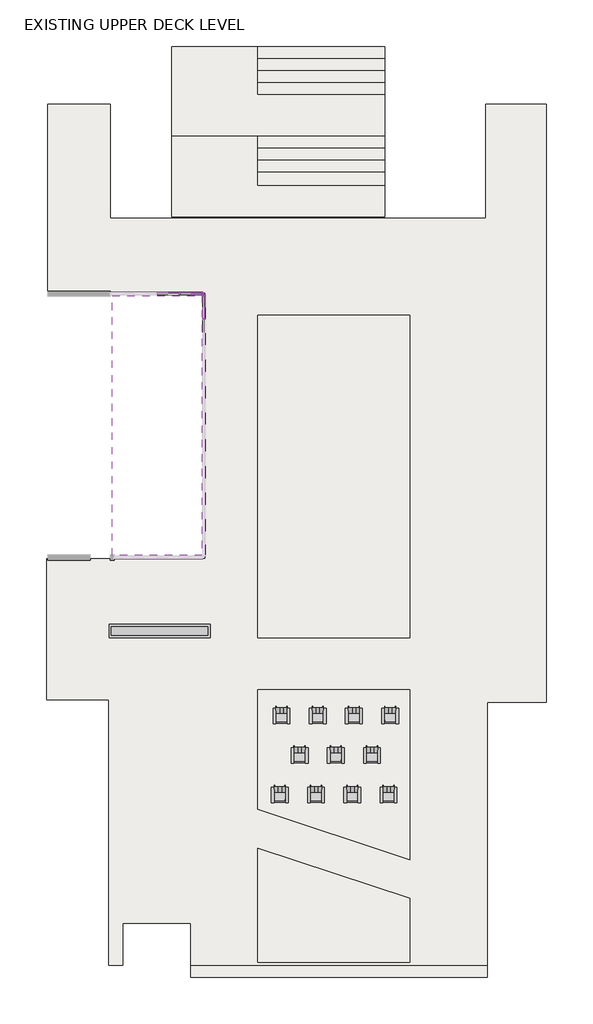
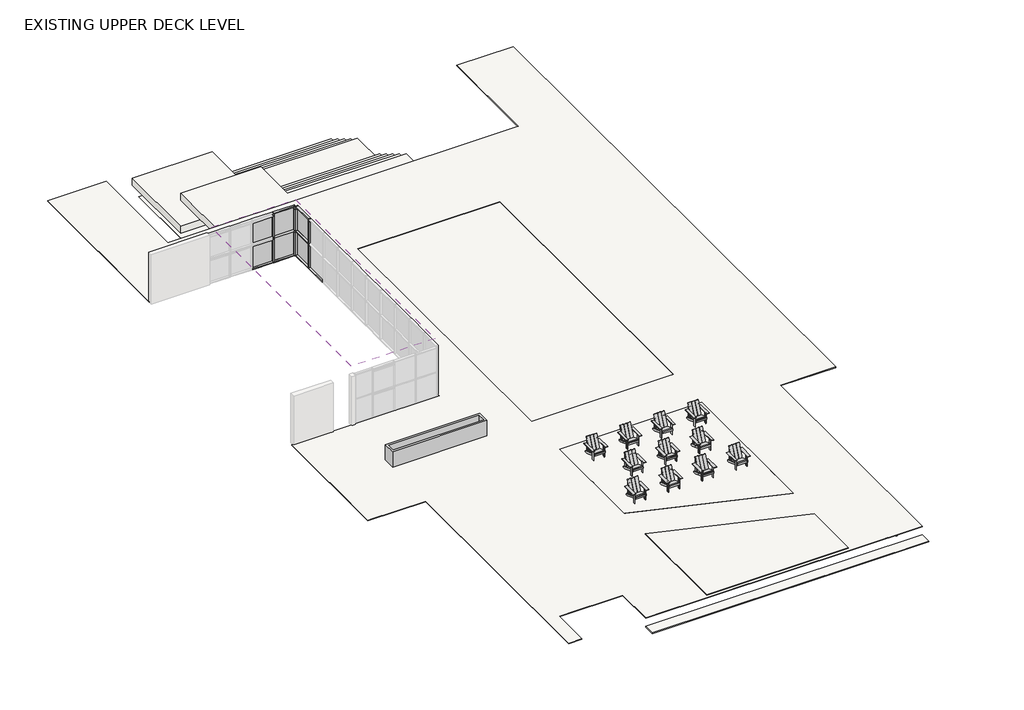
# One storey, part 3 of 3: 23 members, 16 beams, 15 slabs, 11 furniture elements, 8 plates, 1 geographic element, 1 roof.
"""IFC4 building model written with IfcOpenShell, lengths in millimetres."""

from ifc_helpers import new_model, si_unit, frame, origin, place, context, project, spatial, polyline, outline, extrude, transform, mapped, element, save
from components import dimension_lumber_2x10_b1b00c38, dimension_lumber_2x10_1dc64cbc, w_wide_flange_w12x26_d550ef31, w_wide_flange_w12x26_78e0f775, w_wide_flange_w16x36_ed80a345, adirondack_chair_and_table_chair_16611_adirondack_chair_and_71c2177a, geographic_element_2b798763, rectangular_mullion_3bbbedf9, rectangular_mullion_b4cfd369, rectangular_mullion_7315190d, rectangular_mullion_b1e2b9a9, rectangular_mullion_10d2db1b, rectangular_mullion_3d4ac5a3, rectangular_mullion_d11c3cbe, rectangular_mullion_58844fd5, rectangular_mullion_fd3b6dd5, rectangular_mullion_40eadc30, rectangular_mullion_3aae72b7, rectangular_mullion_b3d4cb6b, rectangular_mullion_02851ec9, rectangular_mullion_aeacb874, rectangular_mullion_6010078c, rectangular_mullion_5dae8c0a, rectangular_mullion_0bcf50c1, rectangular_mullion_634541af, rectangular_mullion_af807cf6, rectangular_mullion_93630891, rectangular_mullion_f3aea93a, rectangular_mullion_042afdd0, rectangular_mullion_55faee5e, plate_cb1350e7, plate_33b08ce2, plate_3054a16b, plate_87ee5b28, plate_30067b60, plate_68830c21, plate_a2bcb05a, plate_dc7cb12e

model = new_model("IFC4")

# Units and contexts
model_context = context("Model", 3, world=origin())
ifc_project = project(units=[si_unit("LENGTHUNIT", "METRE", prefix="MILLI")], contexts=[model_context])

# Site, building, storey
site = spatial("IfcSite", under=ifc_project)
building = spatial("IfcBuilding", under=site)
storey = spatial("IfcBuildingStorey", under=building, Name="EXISTING UPPER DECK LEVEL", Elevation=294830.5)

# Beams
placement = place(None, origin())
dimension_lumber_2x10_shape = dimension_lumber_2x10_b1b00c38(model_context)
element("IfcBeam", 1, ObjectType="Dimension Lumber : 2x10", at=placement, inside=storey, context=model_context, shape_type="MappedRepresentation", body=[
    mapped(dimension_lumber_2x10_shape, transform((35809.7406651, 197243.4763434, 294713.025), x_axis=(0.0, -1.0, 0.0), y_axis=(1.0, 0.0, 0.0), z_axis=(0.0, 0.0, 1.0))),
])
element("IfcBeam", 2, ObjectType="Dimension Lumber : 2x10", at=placement, inside=storey, context=model_context, shape_type="MappedRepresentation", body=[
    mapped(dimension_lumber_2x10_shape, transform((35200.1406651, 197243.4763434, 294713.025), x_axis=(0.0, -1.0, 0.0), y_axis=(1.0, 0.0, 0.0), z_axis=(0.0, 0.0, 1.0))),
])
element("IfcBeam", 3, ObjectType="Dimension Lumber : 2x10", at=placement, inside=storey, context=model_context, shape_type="MappedRepresentation", body=[
    mapped(dimension_lumber_2x10_shape, transform((34590.5406651, 197243.4763434, 294713.025), x_axis=(0.0, -1.0, 0.0), y_axis=(1.0, 0.0, 0.0), z_axis=(0.0, 0.0, 1.0))),
])
element("IfcBeam", 4, ObjectType="Dimension Lumber : 2x10", at=placement, inside=storey, context=model_context, shape_type="MappedRepresentation", body=[
    mapped(dimension_lumber_2x10_shape, transform((33371.3406651, 197243.4763434, 294713.025), x_axis=(0.0, -1.0, 0.0), y_axis=(1.0, 0.0, 0.0), z_axis=(0.0, 0.0, 1.0))),
])
element("IfcBeam", 5, ObjectType="Dimension Lumber : 2x10", at=placement, inside=storey, context=model_context, shape_type="MappedRepresentation", body=[
    mapped(dimension_lumber_2x10_shape, transform((32761.7406651, 197243.4763434, 294713.025), x_axis=(0.0, -1.0, 0.0), y_axis=(1.0, 0.0, 0.0), z_axis=(0.0, 0.0, 1.0))),
])
element("IfcBeam", 6, ObjectType="Dimension Lumber : 2x10", at=placement, inside=storey, context=model_context, shape_type="MappedRepresentation", body=[
    mapped(dimension_lumber_2x10_shape, transform((32152.1406651, 197243.4763434, 294713.025), x_axis=(0.0, -1.0, 0.0), y_axis=(1.0, 0.0, 0.0), z_axis=(0.0, 0.0, 1.0))),
])
element("IfcBeam", 7, ObjectType="Dimension Lumber : 2x10", at=placement, inside=storey, context=model_context, shape_type="MappedRepresentation", body=[
    mapped(dimension_lumber_2x10_shape, transform((31542.5406651, 197243.4763434, 294713.025), x_axis=(0.0, -1.0, 0.0), y_axis=(1.0, 0.0, 0.0), z_axis=(0.0, 0.0, 1.0))),
])
element("IfcBeam", 8, ObjectType="Dimension Lumber : 2x10", at=placement, inside=storey, context=model_context, shape_type="MappedRepresentation", body=[
    mapped(dimension_lumber_2x10_shape, transform((30932.9406651, 197243.4763434, 294713.025), x_axis=(0.0, -1.0, 0.0), y_axis=(1.0, 0.0, 0.0), z_axis=(0.0, 0.0, 1.0))),
])
element("IfcBeam", 9, ObjectType="Dimension Lumber : 2x10", at=placement, inside=storey, context=model_context, shape_type="MappedRepresentation", body=[
    mapped(dimension_lumber_2x10_shape, transform((30323.3406651, 197243.4763434, 294713.025), x_axis=(0.0, -1.0, 0.0), y_axis=(1.0, 0.0, 0.0), z_axis=(0.0, 0.0, 1.0))),
])
element("IfcBeam", 10, ObjectType="Dimension Lumber : 2x10", at=placement, inside=storey, context=model_context, shape_type="MappedRepresentation", body=[
    mapped(dimension_lumber_2x10_shape, transform((29713.7406651, 197243.4763434, 294713.025), x_axis=(0.0, -1.0, 0.0), y_axis=(1.0, 0.0, 0.0), z_axis=(0.0, 0.0, 1.0))),
])
element("IfcBeam", 11, ObjectType="Dimension Lumber : 2x10", at=placement, inside=storey, context=model_context, shape_type="MappedRepresentation", body=[
    mapped(dimension_lumber_2x10_shape, transform((29104.1406651, 197243.4763434, 294713.025), x_axis=(0.0, -1.0, 0.0), y_axis=(1.0, 0.0, 0.0), z_axis=(0.0, 0.0, 1.0))),
])
element("IfcBeam", 12, ObjectType="Dimension Lumber : 2x10", at=placement, inside=storey, context=model_context, shape_type="MappedRepresentation", body=[
    mapped(dimension_lumber_2x10_shape, transform((36419.3406651, 197243.4763434, 294713.025), x_axis=(0.0, -1.0, 0.0), y_axis=(1.0, 0.0, 0.0), z_axis=(0.0, 0.0, 1.0))),
])
dimension_lumber_2x10_2_shape = dimension_lumber_2x10_1dc64cbc(model_context)
element("IfcBeam", 13, ObjectType="Dimension Lumber : 2x10", at=placement, inside=storey, context=model_context, shape_type="MappedRepresentation", body=[
    mapped(dimension_lumber_2x10_2_shape, transform((38857.7406651, 197243.4763434, 294713.025), x_axis=(0.0, -1.0, 0.0), y_axis=(1.0, 0.0, 0.0), z_axis=(0.0, 0.0, 1.0))),
])
w_wide_flange_w12x26_shape = w_wide_flange_w12x26_d550ef31(model_context)
element("IfcBeam", 14, ObjectType="W-Wide Flange : W12X26", at=placement, inside=storey, context=model_context, shape_type="MappedRepresentation", body=[
    mapped(w_wide_flange_w12x26_shape, transform((33987.0004964, 203475.5114935, 294675.56), x_axis=(0.0, -1.0, 0.0), y_axis=(1.0, 0.0, 0.0), z_axis=(0.0, 0.0, 1.0))),
])
w_wide_flange_w12x26_2_shape = w_wide_flange_w12x26_78e0f775(model_context)
element("IfcBeam", 15, ObjectType="W-Wide Flange : W12X26", at=placement, inside=storey, context=model_context, shape_type="MappedRepresentation", body=[
    mapped(w_wide_flange_w12x26_2_shape, transform((31243.8004964, 203475.5114935, 294675.56), x_axis=(0.0, -1.0, 0.0), y_axis=(1.0, 0.0, 0.0), z_axis=(0.0, 0.0, 1.0))),
])
w_wide_flange_w16x36_shape = w_wide_flange_w16x36_ed80a345(model_context)
element("IfcBeam", 16, ObjectType="W-Wide Flange : W16X36", at=placement, inside=storey, context=model_context, shape_type="MappedRepresentation", body=[
    mapped(w_wide_flange_w16x36_shape, transform((29865.8504964, 203246.9114935, 294628.57), x_axis=(-1.0, 0.0, 0.0), y_axis=(0.0, -1.0, 0.0), z_axis=(0.0, 0.0, 1.0))),
])

# Furniture
adirondack_chair_and_table_chair_16611_adirondack_chair_and_shape = adirondack_chair_and_table_chair_16611_adirondack_chair_and_71c2177a(model_context)
element("IfcFurniture", 17, ObjectType="Adirondack_Chair_and_Table_-_Chair_16611 : Adirondack_Chair_and_Table_-_Chair_16611", at=placement, inside=storey, context=model_context, shape_type="MappedRepresentation", body=[
    mapped(adirondack_chair_and_table_chair_16611_adirondack_chair_and_shape, transform((30475.7406651, 200129.0614935, 294881.3), x_axis=(1.0, 0.0, 0.0), y_axis=(0.0, 1.0, 0.0), z_axis=(0.0, 0.0, 1.0))),
])
element("IfcFurniture", 18, ObjectType="Adirondack_Chair_and_Table_-_Chair_16611 : Adirondack_Chair_and_Table_-_Chair_16611", at=placement, inside=storey, context=model_context, shape_type="MappedRepresentation", body=[
    mapped(adirondack_chair_and_table_chair_16611_adirondack_chair_and_shape, transform((32152.1406651, 200129.0614935, 294881.3), x_axis=(1.0, 0.0, 0.0), y_axis=(0.0, 1.0, 0.0), z_axis=(0.0, 0.0, 1.0))),
])
element("IfcFurniture", 19, ObjectType="Adirondack_Chair_and_Table_-_Chair_16611 : Adirondack_Chair_and_Table_-_Chair_16611", at=placement, inside=storey, context=model_context, shape_type="MappedRepresentation", body=[
    mapped(adirondack_chair_and_table_chair_16611_adirondack_chair_and_shape, transform((33828.5406651, 200129.0614935, 294881.3), x_axis=(1.0, 0.0, 0.0), y_axis=(0.0, 1.0, 0.0), z_axis=(0.0, 0.0, 1.0))),
])
element("IfcFurniture", 20, ObjectType="Adirondack_Chair_and_Table_-_Chair_16611 : Adirondack_Chair_and_Table_-_Chair_16611", at=placement, inside=storey, context=model_context, shape_type="MappedRepresentation", body=[
    mapped(adirondack_chair_and_table_chair_16611_adirondack_chair_and_shape, transform((35504.9406651, 200129.0614935, 294881.3), x_axis=(1.0, 0.0, 0.0), y_axis=(0.0, 1.0, 0.0), z_axis=(0.0, 0.0, 1.0))),
])
element("IfcFurniture", 21, ObjectType="Adirondack_Chair_and_Table_-_Chair_16611 : Adirondack_Chair_and_Table_-_Chair_16611", at=placement, inside=storey, context=model_context, shape_type="MappedRepresentation", body=[
    mapped(adirondack_chair_and_table_chair_16611_adirondack_chair_and_shape, transform((31313.9406651, 198300.2614935, 294881.3), x_axis=(1.0, 0.0, 0.0), y_axis=(0.0, 1.0, 0.0), z_axis=(0.0, 0.0, 1.0))),
])
element("IfcFurniture", 22, ObjectType="Adirondack_Chair_and_Table_-_Chair_16611 : Adirondack_Chair_and_Table_-_Chair_16611", at=placement, inside=storey, context=model_context, shape_type="MappedRepresentation", body=[
    mapped(adirondack_chair_and_table_chair_16611_adirondack_chair_and_shape, transform((32990.3406651, 198300.2614935, 294881.3), x_axis=(1.0, 0.0, 0.0), y_axis=(0.0, 1.0, 0.0), z_axis=(0.0, 0.0, 1.0))),
])
element("IfcFurniture", 23, ObjectType="Adirondack_Chair_and_Table_-_Chair_16611 : Adirondack_Chair_and_Table_-_Chair_16611", at=placement, inside=storey, context=model_context, shape_type="MappedRepresentation", body=[
    mapped(adirondack_chair_and_table_chair_16611_adirondack_chair_and_shape, transform((34666.7406651, 198300.2614935, 294881.3), x_axis=(1.0, 0.0, 0.0), y_axis=(0.0, 1.0, 0.0), z_axis=(0.0, 0.0, 1.0))),
])
element("IfcFurniture", 24, ObjectType="Adirondack_Chair_and_Table_-_Chair_16611 : Adirondack_Chair_and_Table_-_Chair_16611", at=placement, inside=storey, context=model_context, shape_type="MappedRepresentation", body=[
    mapped(adirondack_chair_and_table_chair_16611_adirondack_chair_and_shape, transform((32075.9406651, 196471.4614935, 294881.3), x_axis=(1.0, 0.0, 0.0), y_axis=(0.0, 1.0, 0.0), z_axis=(0.0, 0.0, 1.0))),
])
element("IfcFurniture", 25, ObjectType="Adirondack_Chair_and_Table_-_Chair_16611 : Adirondack_Chair_and_Table_-_Chair_16611", at=placement, inside=storey, context=model_context, shape_type="MappedRepresentation", body=[
    mapped(adirondack_chair_and_table_chair_16611_adirondack_chair_and_shape, transform((33752.3406651, 196471.4614935, 294881.3), x_axis=(1.0, 0.0, 0.0), y_axis=(0.0, 1.0, 0.0), z_axis=(0.0, 0.0, 1.0))),
])
element("IfcFurniture", 26, ObjectType="Adirondack_Chair_and_Table_-_Chair_16611 : Adirondack_Chair_and_Table_-_Chair_16611", at=placement, inside=storey, context=model_context, shape_type="MappedRepresentation", body=[
    mapped(adirondack_chair_and_table_chair_16611_adirondack_chair_and_shape, transform((35428.7406651, 196471.4614935, 294881.3), x_axis=(1.0, 0.0, 0.0), y_axis=(0.0, 1.0, 0.0), z_axis=(0.0, 0.0, 1.0))),
])
element("IfcFurniture", 27, ObjectType="Adirondack_Chair_and_Table_-_Chair_16611 : Adirondack_Chair_and_Table_-_Chair_16611", at=placement, inside=storey, context=model_context, shape_type="MappedRepresentation", body=[
    mapped(adirondack_chair_and_table_chair_16611_adirondack_chair_and_shape, transform((30399.5406651, 196471.4614935, 294881.3), x_axis=(1.0, 0.0, 0.0), y_axis=(0.0, 1.0, 0.0), z_axis=(0.0, 0.0, 1.0))),
])

# Geographic element
geographic_element_shape = geographic_element_2b798763(model_context)
element("IfcGeographicElement", 28, ObjectType="Planter : 15'-4\" x 24\"", at=placement, inside=storey, context=model_context, shape_type="MappedRepresentation", body=[
    mapped(geographic_element_shape, transform((24835.9779546, 203697.5652609, 294830.5), x_axis=(0.0, 1.0, 0.0), y_axis=(-1.0, 0.0, 0.0), z_axis=(0.0, 0.0, 1.0))),
])

# Members
rectangular_mullion_shape = rectangular_mullion_3bbbedf9(model_context)
element("IfcMember", 29, ObjectType="Rectangular Mullion : Kawneer-TRIFAB_VG_450_BACK_SB_Vertical", at=placement, inside=storey, context=model_context, shape_type="MappedRepresentation", body=[
    mapped(rectangular_mullion_shape, transform((26931.5406077, 218120.7591288, 294830.5), x_axis=(0.0, -1.0, 0.0), y_axis=(-1.0, 0.0, 0.0), z_axis=(0.0, 0.0, -1.0))),
])
rectangular_mullion_2_shape = rectangular_mullion_b4cfd369(model_context)
element("IfcMember", 30, ObjectType="Rectangular Mullion : Kawneer-TRIFAB_VG_450_BACK_SB_Jamb L", at=placement, inside=storey, context=model_context, shape_type="MappedRepresentation", body=[
    mapped(rectangular_mullion_2_shape, transform((26931.5406077, 219249.81426, 296049.7), x_axis=(0.0, 1.0, 0.0), y_axis=(-1.0, 0.0, 0.0), z_axis=(0.0, 0.0, 1.0))),
])
rectangular_mullion_3_shape = rectangular_mullion_7315190d(model_context)
element("IfcMember", 31, ObjectType="Rectangular Mullion : Kawneer-TRIFAB_VG_450_BACK_SB_Sill", at=placement, inside=storey, context=model_context, shape_type="MappedRepresentation", body=[
    mapped(rectangular_mullion_3_shape, transform((26931.5406077, 218098.5341288, 294830.5), x_axis=(0.0, 0.0, -1.0), y_axis=(-1.0, 0.0, 0.0), z_axis=(0.0, 1.0, 0.0))),
])
rectangular_mullion_4_shape = rectangular_mullion_b1e2b9a9(model_context)
element("IfcMember", 32, ObjectType="Rectangular Mullion : Kawneer-TRIFAB_VG_450_BACK_SB_Jamb L", at=placement, inside=storey, context=model_context, shape_type="MappedRepresentation", body=[
    mapped(rectangular_mullion_4_shape, transform((26834.7031077, 219346.65176, 296049.7), x_axis=(1.0, 0.0, 0.0), y_axis=(0.0, 1.0, 0.0), z_axis=(0.0, 0.0, 1.0))),
])
rectangular_mullion_5_shape = rectangular_mullion_10d2db1b(model_context)
element("IfcMember", 33, ObjectType="Rectangular Mullion : Kawneer-TRIFAB_VG_450_BACK_SB_Vertical", at=placement, inside=storey, context=model_context, shape_type="MappedRepresentation", body=[
    mapped(rectangular_mullion_5_shape, transform((26931.5406077, 218120.7591288, 297268.9), x_axis=(0.0, -1.0, 0.0), y_axis=(-1.0, 0.0, 0.0), z_axis=(0.0, 0.0, -1.0))),
])
rectangular_mullion_6_shape = rectangular_mullion_3d4ac5a3(model_context)
element("IfcMember", 34, ObjectType="Rectangular Mullion : Kawneer-TRIFAB_VG_450_BACK_SB_Jamb L", at=placement, inside=storey, context=model_context, shape_type="MappedRepresentation", body=[
    mapped(rectangular_mullion_6_shape, transform((26931.5406077, 219249.81426, 297421.3), x_axis=(0.0, 1.0, 0.0), y_axis=(-1.0, 0.0, 0.0), z_axis=(0.0, 0.0, 1.0))),
])
rectangular_mullion_7_shape = rectangular_mullion_d11c3cbe(model_context)
element("IfcMember", 35, ObjectType="Rectangular Mullion : Kawneer-TRIFAB_VG_450_BACK_SB_Jamb L", at=placement, inside=storey, context=model_context, shape_type="MappedRepresentation", body=[
    mapped(rectangular_mullion_7_shape, transform((26834.7031077, 219346.65176, 297421.3), x_axis=(1.0, 0.0, 0.0), y_axis=(0.0, 1.0, 0.0), z_axis=(0.0, 0.0, 1.0))),
])
rectangular_mullion_8_shape = rectangular_mullion_58844fd5(model_context)
element("IfcMember", 36, ObjectType="Rectangular Mullion : Kawneer-TRIFAB_VG_450_BACK_SB_Vertical", at=placement, inside=storey, context=model_context, shape_type="MappedRepresentation", body=[
    mapped(rectangular_mullion_8_shape, transform((25763.9186944, 219346.65176, 294830.5), x_axis=(-1.0, 0.0, 0.0), y_axis=(0.0, 1.0, 0.0), z_axis=(0.0, 0.0, -1.0))),
])
rectangular_mullion_9_shape = rectangular_mullion_fd3b6dd5(model_context)
element("IfcMember", 37, ObjectType="Rectangular Mullion : Kawneer-TRIFAB_VG_450_BACK_SB_Vertical", at=placement, inside=storey, context=model_context, shape_type="MappedRepresentation", body=[
    mapped(rectangular_mullion_9_shape, transform((26931.5406077, 218120.7591288, 296049.7), x_axis=(0.0, -1.0, 0.0), y_axis=(-1.0, 0.0, 0.0), z_axis=(0.0, 0.0, -1.0))),
])
rectangular_mullion_10_shape = rectangular_mullion_40eadc30(model_context)
element("IfcMember", 38, ObjectType="Rectangular Mullion : Kawneer-TRIFAB_VG_450_BACK_SB_Vertical", at=placement, inside=storey, context=model_context, shape_type="MappedRepresentation", body=[
    mapped(rectangular_mullion_10_shape, transform((26931.5406077, 218120.7591288, 296152.4594027), x_axis=(0.0, -1.0, 0.0), y_axis=(-1.0, 0.0, 0.0), z_axis=(0.0, 0.0, -1.0))),
])
rectangular_mullion_11_shape = rectangular_mullion_3aae72b7(model_context)
element("IfcMember", 39, ObjectType="Rectangular Mullion : Kawneer-TRIFAB_VG_450_BACK_SB_Jamb L", at=placement, inside=storey, context=model_context, shape_type="MappedRepresentation", body=[
    mapped(rectangular_mullion_11_shape, transform((26931.5406077, 219249.81426, 297268.9), x_axis=(0.0, 1.0, 0.0), y_axis=(-1.0, 0.0, 0.0), z_axis=(0.0, 0.0, 1.0))),
])
rectangular_mullion_12_shape = rectangular_mullion_b3d4cb6b(model_context)
element("IfcMember", 40, ObjectType="Rectangular Mullion : Kawneer-TRIFAB_VG_450_BACK_SB_Jamb L", at=placement, inside=storey, context=model_context, shape_type="MappedRepresentation", body=[
    mapped(rectangular_mullion_12_shape, transform((26931.5406077, 219249.81426, 296108.0094027), x_axis=(0.0, 1.0, 0.0), y_axis=(-1.0, 0.0, 0.0), z_axis=(0.0, 0.0, 1.0))),
])
rectangular_mullion_13_shape = rectangular_mullion_02851ec9(model_context)
element("IfcMember", 41, ObjectType="Rectangular Mullion : Kawneer-TRIFAB_VG_450_BACK_SB_Jamb L", at=placement, inside=storey, context=model_context, shape_type="MappedRepresentation", body=[
    mapped(rectangular_mullion_13_shape, transform((26834.7031077, 219346.65176, 297268.9), x_axis=(1.0, 0.0, 0.0), y_axis=(0.0, 1.0, 0.0), z_axis=(0.0, 0.0, 1.0))),
])
rectangular_mullion_14_shape = rectangular_mullion_aeacb874(model_context)
element("IfcMember", 42, ObjectType="Rectangular Mullion : Kawneer-TRIFAB_VG_450_BACK_SB_Jamb L", at=placement, inside=storey, context=model_context, shape_type="MappedRepresentation", body=[
    mapped(rectangular_mullion_14_shape, transform((26834.7031077, 219346.65176, 296108.0094027), x_axis=(1.0, 0.0, 0.0), y_axis=(0.0, 1.0, 0.0), z_axis=(0.0, 0.0, 1.0))),
])
rectangular_mullion_15_shape = rectangular_mullion_6010078c(model_context)
element("IfcMember", 43, ObjectType="Rectangular Mullion : Kawneer-TRIFAB_VG_450_BACK_SB_Sill", at=placement, inside=storey, context=model_context, shape_type="MappedRepresentation", body=[
    mapped(rectangular_mullion_15_shape, transform((26931.5406077, 219205.36426, 294830.5), x_axis=(0.0, 0.0, -1.0), y_axis=(-1.0, 0.0, 0.0), z_axis=(0.0, 1.0, 0.0))),
])
rectangular_mullion_16_shape = rectangular_mullion_5dae8c0a(model_context)
element("IfcMember", 44, ObjectType="Rectangular Mullion : Kawneer-TRIFAB_VG_450_BACK_SB_Head", at=placement, inside=storey, context=model_context, shape_type="MappedRepresentation", body=[
    mapped(rectangular_mullion_16_shape, transform((26931.5406077, 218142.9841288, 297421.3), x_axis=(0.0, 0.0, 1.0), y_axis=(-1.0, 0.0, 0.0), z_axis=(0.0, -1.0, 0.0))),
])
rectangular_mullion_17_shape = rectangular_mullion_0bcf50c1(model_context)
element("IfcMember", 45, ObjectType="Rectangular Mullion : Kawneer-TRIFAB_VG_450_BACK_SB_Horizontal", at=placement, inside=storey, context=model_context, shape_type="MappedRepresentation", body=[
    mapped(rectangular_mullion_17_shape, transform((26931.5406077, 218120.7591288, 296125.9), x_axis=(0.0, 0.0, 1.0), y_axis=(-1.0, 0.0, 0.0), z_axis=(0.0, -1.0, 0.0))),
])
rectangular_mullion_18_shape = rectangular_mullion_634541af(model_context)
element("IfcMember", 46, ObjectType="Rectangular Mullion : Kawneer-TRIFAB_VG_450_BACK_SB_Vertical", at=placement, inside=storey, context=model_context, shape_type="MappedRepresentation", body=[
    mapped(rectangular_mullion_18_shape, transform((25763.9186944, 219346.65176, 296076.2594027), x_axis=(-1.0, 0.0, 0.0), y_axis=(0.0, 1.0, 0.0), z_axis=(0.0, 0.0, -1.0))),
])
rectangular_mullion_19_shape = rectangular_mullion_af807cf6(model_context)
element("IfcMember", 47, ObjectType="Rectangular Mullion : Kawneer-TRIFAB_VG_450_BACK_SB_Vertical", at=placement, inside=storey, context=model_context, shape_type="MappedRepresentation", body=[
    mapped(rectangular_mullion_19_shape, transform((25763.9186944, 219346.65176, 296152.4594027), x_axis=(-1.0, 0.0, 0.0), y_axis=(0.0, 1.0, 0.0), z_axis=(0.0, 0.0, -1.0))),
])
rectangular_mullion_20_shape = rectangular_mullion_93630891(model_context)
element("IfcMember", 48, ObjectType="Rectangular Mullion : Kawneer-TRIFAB_VG_450_BACK_SB_Vertical", at=placement, inside=storey, context=model_context, shape_type="MappedRepresentation", body=[
    mapped(rectangular_mullion_20_shape, transform((25763.9186944, 219346.65176, 297295.4594027), x_axis=(-1.0, 0.0, 0.0), y_axis=(0.0, 1.0, 0.0), z_axis=(0.0, 0.0, -1.0))),
])
rectangular_mullion_21_shape = rectangular_mullion_f3aea93a(model_context)
element("IfcMember", 49, ObjectType="Rectangular Mullion : Kawneer-TRIFAB_VG_450_BACK_SB_Sill", at=placement, inside=storey, context=model_context, shape_type="MappedRepresentation", body=[
    mapped(rectangular_mullion_21_shape, transform((26790.2531077, 219346.65176, 294830.5), x_axis=(0.0, 0.0, -1.0), y_axis=(0.0, 1.0, 0.0), z_axis=(1.0, 0.0, 0.0))),
])
rectangular_mullion_22_shape = rectangular_mullion_042afdd0(model_context)
element("IfcMember", 50, ObjectType="Rectangular Mullion : Kawneer-TRIFAB_VG_450_BACK_SB_Head", at=placement, inside=storey, context=model_context, shape_type="MappedRepresentation", body=[
    mapped(rectangular_mullion_22_shape, transform((25786.1436944, 219346.65176, 297421.3), x_axis=(0.0, 0.0, 1.0), y_axis=(0.0, 1.0, 0.0), z_axis=(-1.0, 0.0, 0.0))),
])
rectangular_mullion_23_shape = rectangular_mullion_55faee5e(model_context)
element("IfcMember", 51, ObjectType="Rectangular Mullion : Kawneer-TRIFAB_VG_450_BACK_SB_Sill", at=placement, inside=storey, context=model_context, shape_type="MappedRepresentation", body=[
    mapped(rectangular_mullion_23_shape, transform((25741.6936944, 219346.65176, 294830.5), x_axis=(0.0, 0.0, -1.0), y_axis=(0.0, 1.0, 0.0), z_axis=(1.0, 0.0, 0.0))),
])

# Plates
plate_shape = plate_cb1350e7(model_context)
element("IfcPlate", 52, ObjectType="System Panel : 1/4\" Glass", at=placement, inside=storey, context=model_context, shape_type="MappedRepresentation", body=[
    mapped(plate_shape, transform((26931.5406077, 218667.8241944, 294865.425), x_axis=(0.0, -1.0, 0.0), y_axis=(1.0, 0.0, 0.0), z_axis=(0.0, 0.0, 1.0))),
])
plate_2_shape = plate_33b08ce2(model_context)
element("IfcPlate", 53, ObjectType="System Panel : 1/4\" Glass", at=placement, inside=storey, context=model_context, shape_type="MappedRepresentation", body=[
    mapped(plate_2_shape, transform((26931.5406077, 218667.8241944, 296152.4594027), x_axis=(0.0, -1.0, 0.0), y_axis=(1.0, 0.0, 0.0), z_axis=(0.0, 0.0, 1.0))),
])
plate_3_shape = plate_3054a16b(model_context)
element("IfcPlate", 54, ObjectType="System Panel : 1/4\" Glass", at=placement, inside=storey, context=model_context, shape_type="MappedRepresentation", body=[
    mapped(plate_3_shape, transform((26281.8484011, 219346.65176, 294865.425), x_axis=(-1.0, 0.0, 0.0), y_axis=(0.0, -1.0, 0.0), z_axis=(0.0, 0.0, 1.0))),
])
plate_4_shape = plate_87ee5b28(model_context)
element("IfcPlate", 55, ObjectType="System Panel : 1/4\" Glass", at=placement, inside=storey, context=model_context, shape_type="MappedRepresentation", body=[
    mapped(plate_4_shape, transform((26281.8484011, 219346.65176, 296152.4594027), x_axis=(-1.0, 0.0, 0.0), y_axis=(0.0, -1.0, 0.0), z_axis=(0.0, 0.0, 1.0))),
])
plate_5_shape = plate_30067b60(model_context)
element("IfcPlate", 56, ObjectType="System Panel : 1/4\" Glass", at=placement, inside=storey, context=model_context, shape_type="MappedRepresentation", body=[
    mapped(plate_5_shape, transform((25228.527373, 219346.65176, 294865.425), x_axis=(-1.0, 0.0, 0.0), y_axis=(0.0, -1.0, 0.0), z_axis=(0.0, 0.0, 1.0))),
])
plate_6_shape = plate_68830c21(model_context)
element("IfcPlate", 57, ObjectType="System Panel : 1/4\" Glass", at=placement, inside=storey, context=model_context, shape_type="MappedRepresentation", body=[
    mapped(plate_6_shape, transform((25228.527373, 219346.65176, 296076.2594027), x_axis=(-1.0, 0.0, 0.0), y_axis=(0.0, -1.0, 0.0), z_axis=(0.0, 0.0, 1.0))),
])
plate_7_shape = plate_a2bcb05a(model_context)
element("IfcPlate", 58, ObjectType="System Panel : 1/4\" Glass", at=placement, inside=storey, context=model_context, shape_type="MappedRepresentation", body=[
    mapped(plate_7_shape, transform((25228.527373, 219346.65176, 296152.4594027), x_axis=(-1.0, 0.0, 0.0), y_axis=(0.0, -1.0, 0.0), z_axis=(0.0, 0.0, 1.0))),
])
plate_8_shape = plate_dc7cb12e(model_context)
element("IfcPlate", 59, ObjectType="System Panel : 1/4\" Glass", at=placement, inside=storey, context=model_context, shape_type="MappedRepresentation", body=[
    mapped(plate_8_shape, transform((25228.527373, 219346.65176, 297295.4594027), x_axis=(-1.0, 0.0, 0.0), y_axis=(0.0, -1.0, 0.0), z_axis=(0.0, 0.0, 1.0))),
])

# Roof
element("IfcRoof", 60, ObjectType="TPO ROOF WITH 4\" INSULATION", at=placement, inside=storey, context=model_context, shape_type="SweptSolid", body=[
    extrude(outline(polyline([(22653.1654546, 219211.1358092), (26796.6031077, 219211.1358092), (26796.6031077, 207192.6449484), (22653.1654546, 207192.6449484), (22653.1654546, 219211.1358092)])), frame((0.0, 0.0, 297805.475), z_axis=(0.0, 0.0, 1.0), x_axis=(1.0, 0.0, 0.0)), (0.0, 0.0, 1.0), 123.825),
])

# Slabs
element("IfcSlab", 61, ObjectType="5/4\" Hardwood Stadium Seat (14\")", at=placement, inside=storey, context=model_context, shape_type="SweptSolid", body=[
    extrude(outline(polyline([(25396.8728313, 222866.5454803), (25396.8728313, 226588.7909796), (29359.2728313, 226588.7909796), (29359.2728313, 224302.7909796), (35251.5654546, 224302.7909796), (35251.5654546, 222866.5454803), (25396.8728313, 222866.5454803)])), frame((0.0, 0.0, 293784.8666667), z_axis=(0.0, 0.0, 1.0), x_axis=(1.0, 0.0, 0.0)), (0.0, 0.0, 1.0), 355.6),
])
element("IfcSlab", 62, ObjectType="5/4\" Hardwood Stadium Seat (14\")", at=placement, inside=storey, context=model_context, shape_type="SweptSolid", body=[
    extrude(outline(polyline([(29359.2728313, 224302.7909796), (29359.2728313, 224912.3909796), (35251.5654546, 224912.3909796), (35251.5654546, 224302.7909796), (29359.2728313, 224302.7909796)])), frame((0.0, 0.0, 293439.85), z_axis=(0.0, 0.0, 1.0), x_axis=(1.0, 0.0, 0.0)), (0.0, 0.0, 1.0), 355.6),
])
element("IfcSlab", 63, ObjectType="5/4\" Hardwood Stadium Seat (14\")", at=placement, inside=storey, context=model_context, shape_type="SweptSolid", body=[
    extrude(outline(polyline([(29359.2728313, 224861.5909796), (29359.2728313, 225471.1909796), (35251.5654546, 225471.1909796), (35251.5654546, 224861.5909796), (29359.2728313, 224861.5909796)])), frame((0.0, 0.0, 293094.8333333), z_axis=(0.0, 0.0, 1.0), x_axis=(1.0, 0.0, 0.0)), (0.0, 0.0, 1.0), 355.6),
])
element("IfcSlab", 64, ObjectType="5/4\" Hardwood Stadium Seat (14\")", at=placement, inside=storey, context=model_context, shape_type="SweptSolid", body=[
    extrude(outline(polyline([(29359.2728313, 225420.3909796), (29359.2728313, 226029.9909796), (35251.5654546, 226029.9909796), (35251.5654546, 225420.3909796), (29359.2728313, 225420.3909796)])), frame((0.0, 0.0, 292749.8166667), z_axis=(0.0, 0.0, 1.0), x_axis=(1.0, 0.0, 0.0)), (0.0, 0.0, 1.0), 355.6),
])
element("IfcSlab", 65, ObjectType="5/4\" Hardwood Stadium Seat (14\")", at=placement, inside=storey, context=model_context, shape_type="SweptSolid", body=[
    extrude(outline(polyline([(25396.8728313, 226588.7909796), (25396.8728313, 230739.7703252), (29359.2728313, 230739.7703252), (29359.2728313, 228504.5703252), (35251.5654546, 228504.5703252), (35251.5654546, 226588.7909796), (25396.8728313, 226588.7909796)])), frame((0.0, 0.0, 292059.7833333), z_axis=(0.0, 0.0, 1.0), x_axis=(1.0, 0.0, 0.0)), (0.0, 0.0, 1.0), 355.6),
])
element("IfcSlab", 66, ObjectType="5/4\" Hardwood Stadium Seat (14\")", at=placement, inside=storey, context=model_context, shape_type="SweptSolid", body=[
    extrude(outline(polyline([(29359.2728313, 225979.1909796), (29359.2728313, 226588.7909796), (35251.5654546, 226588.7909796), (35251.5654546, 225979.1909796), (29359.2728313, 225979.1909796)])), frame((0.0, 0.0, 292404.8), z_axis=(0.0, 0.0, 1.0), x_axis=(1.0, 0.0, 0.0)), (0.0, 0.0, 1.0), 355.6),
])
element("IfcSlab", 67, ObjectType="5/4\" Hardwood Stadium Seat (14\")", at=placement, inside=storey, context=model_context, shape_type="SweptSolid", body=[
    extrude(outline(polyline([(29359.2728313, 228453.7703252), (29359.2728313, 229063.3703252), (35251.5654546, 229063.3703252), (35251.5654546, 228453.7703252), (29359.2728313, 228453.7703252)])), frame((0.0, 0.0, 291708.332), z_axis=(0.0, 0.0, 1.0), x_axis=(1.0, 0.0, 0.0)), (0.0, 0.0, 1.0), 355.6),
])
element("IfcSlab", 68, ObjectType="5/4\" Hardwood Stadium Seat (14\")", at=placement, inside=storey, context=model_context, shape_type="SweptSolid", body=[
    extrude(outline(polyline([(29359.2728313, 229012.5703252), (29359.2728313, 229622.1703252), (35251.5654546, 229622.1703252), (35251.5654546, 229012.5703252), (29359.2728313, 229012.5703252)])), frame((0.0, 0.0, 291364.924), z_axis=(0.0, 0.0, 1.0), x_axis=(1.0, 0.0, 0.0)), (0.0, 0.0, 1.0), 355.6),
])
element("IfcSlab", 69, ObjectType="5/4\" Hardwood Stadium Seat (14\")", at=placement, inside=storey, context=model_context, shape_type="SweptSolid", body=[
    extrude(outline(polyline([(29359.2728313, 229571.3703252), (29359.2728313, 230180.9703252), (35251.5654546, 230180.9703252), (35251.5654546, 229571.3703252), (29359.2728313, 229571.3703252)])), frame((0.0, 0.0, 291021.516), z_axis=(0.0, 0.0, 1.0), x_axis=(1.0, 0.0, 0.0)), (0.0, 0.0, 1.0), 355.6),
])
element("IfcSlab", 70, ObjectType="5/4\" Hardwood Stadium Seat (14\")", at=placement, inside=storey, context=model_context, shape_type="SweptSolid", body=[
    extrude(outline(polyline([(29359.2728313, 230130.1703252), (29359.2728313, 230739.7703252), (35251.5654546, 230739.7703252), (35251.5654546, 230130.1703252), (29359.2728313, 230130.1703252)])), frame((0.0, 0.0, 290678.108), z_axis=(0.0, 0.0, 1.0), x_axis=(1.0, 0.0, 0.0)), (0.0, 0.0, 1.0), 355.6),
])
element("IfcSlab", 71, ObjectType="Grass Turf", at=placement, inside=storey, context=model_context, shape_type="SweptSolid", body=[
    extrude(outline(polyline([(36416.1294964, 200967.2614935), (36416.1294964, 193119.3724238), (29389.4734964, 195440.6537717), (29389.4734964, 200967.2614935), (36416.1294964, 200967.2614935)])), frame((0.0, 0.0, 294728.9), z_axis=(0.0, 0.0, 1.0), x_axis=(1.0, 0.0, 0.0)), (0.0, 0.0, 1.0), 152.4),
    extrude(outline(polyline([(36416.1294964, 188376.0056087), (29389.4734964, 188376.0056087), (29389.4734964, 193648.3961522), (36416.1294964, 191327.1148044), (36416.1294964, 188376.0056087)])), frame((0.0, 0.0, 294728.9), z_axis=(0.0, 0.0, 1.0), x_axis=(1.0, 0.0, 0.0)), (0.0, 0.0, 1.0), 152.4),
])
element("IfcSlab", 72, ObjectType="FF - 1/4\" Carpet", at=placement, inside=storey, context=model_context, shape_type="SweptSolid", body=[
    extrude(outline(polyline([(25396.8728313, 226524.1454803), (25396.8728313, 230181.7454803), (29359.2728313, 230181.7454803), (29359.2728313, 226524.1454803), (25396.8728313, 226524.1454803)])), frame((0.0, 0.0, 291776.15), z_axis=(0.0, 0.0, 1.0), x_axis=(1.0, 0.0, 0.0)), (0.0, 0.0, 1.0), 6.35),
])
element("IfcSlab", 73, ObjectType="FF - 1/4\" Carpet", at=placement, inside=storey, context=model_context, shape_type="SweptSolid", body=[
    extrude(outline(polyline([(36416.1294964, 218295.8976318), (36416.1294964, 203392.7652609), (29389.4734964, 203392.7652609), (29389.4734964, 218295.8976318), (36416.1294964, 218295.8976318)])), frame((0.0, 0.0, 294849.55), z_axis=(0.0, 0.0, 1.0), x_axis=(1.0, 0.0, 0.0)), (0.0, 0.0, 1.0), 6.35),
])
element("IfcSlab", 74, ObjectType="FF - 5/4\" Hardwood", at=placement, inside=storey, context=model_context, shape_type="SweptSolid", body=[
    extrude(outline(polyline([(39995.4390585, 188223.6056087), (39995.4390585, 187664.8056087), (26276.8025234, 187664.8056087), (26276.8025234, 188223.6056087), (39995.4390585, 188223.6056087)])), frame((0.0, 0.0, 294376.475), z_axis=(0.0, 0.0, 1.0), x_axis=(1.0, 0.0, 0.0)), (0.0, 0.0, 1.0), 31.75),
])
element("IfcSlab", 75, ObjectType="FF - 5/4\" Hardwood", at=placement, inside=storey, context=model_context, shape_type="SweptSolid", body=[
    extrude(outline(polyline([(22479.7044304, 200505.023934), (19605.1654546, 200505.023934), (19605.1654546, 207040.2449484), (26949.0031077, 207040.2449484), (26949.0031077, 219346.65176), (19662.3154546, 219346.65176), (19662.3154546, 228080.6601201), (22551.5654546, 228080.6601201), (22551.5654546, 222794.1064475), (39925.1654546, 222794.1064475), (39925.1654546, 228080.6601201), (42723.3951196, 228080.6601201), (42723.3951196, 200403.423934), (39995.4390585, 200403.423934), (39995.4390585, 188223.6056087), (26276.8025234, 188223.6056087), (26276.8025234, 190176.5414421), (23127.2025234, 190176.5414421), (23127.2025234, 188223.6056087), (22479.7044304, 188223.6056087), (22479.7044304, 200505.023934)]), holes=[polyline([(36416.1294964, 218295.8976318), (29389.4734964, 218295.8976318), (29389.4734964, 203392.7652609), (36416.1294964, 203392.7652609), (36416.1294964, 218295.8976318)]), polyline([(29389.4734964, 193648.3961522), (29389.4734964, 188376.0056087), (36416.1294964, 188376.0056087), (36416.1294964, 191327.1148044), (29389.4734964, 193648.3961522)]), polyline([(36416.1294964, 200967.2614935), (29389.4734964, 200967.2614935), (29389.4734964, 195440.6537717), (36416.1294964, 193119.3724238), (36416.1294964, 200967.2614935)])]), frame((0.0, 0.0, 294830.5), z_axis=(0.0, 0.0, 1.0), x_axis=(1.0, 0.0, 0.0)), (0.0, 0.0, 1.0), 31.75),
])

save(model, "model.ifc")
